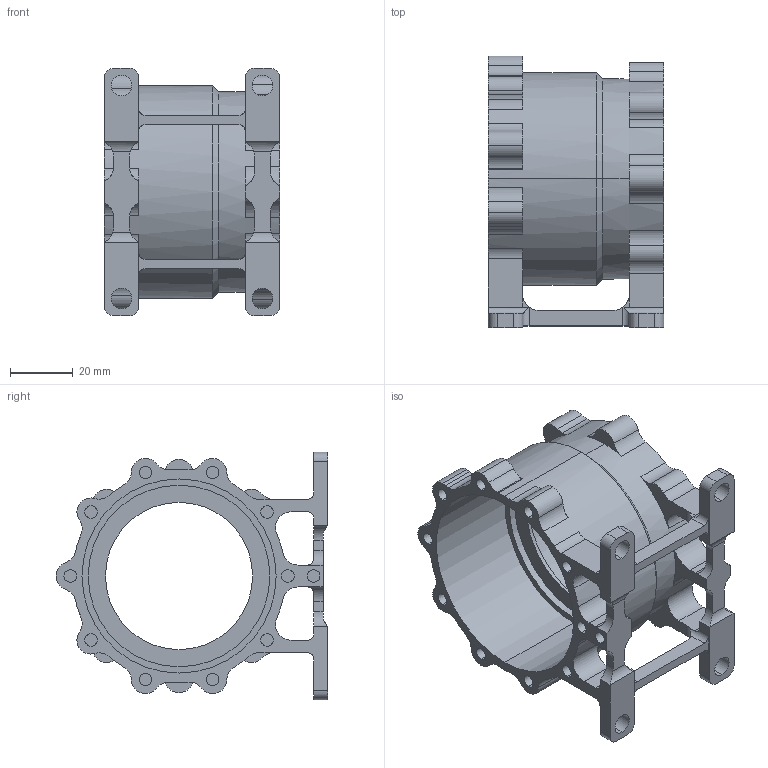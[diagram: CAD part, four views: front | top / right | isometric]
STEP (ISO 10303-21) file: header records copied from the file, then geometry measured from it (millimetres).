
FILE_DESCRIPTION (( 'STEP AP203' ), '1' );
FILE_NAME ('2-10-01-谐波旋转关节-支架.STEP', '2022-10-23T03:02:03', ( 'OS' ), ( '' ), 'SwSTEP 2.0', 'SolidWorks 2018', '' );
FILE_SCHEMA (( 'CONFIG_CONTROL_DESIGN' ));
Length unit declared in the file: millimetre
Products named in the file (1): 2-10-01-谐波旋转关节-支架
Bounding box: 56 x 86.73 x 79 mm (x, y, z)
Volume: 52638.8 mm3; surface area: 37423.5 mm2
Topology: 1 solids, 1 shells, 275 faces, 750 edges, 488 vertices
Faces by surface type: cylinder 176, plane 97, cone 2
Entity records: 9161 total; most frequent: CARTESIAN_POINT 1790, DIRECTION 1642, ORIENTED_EDGE 1500, EDGE_CURVE 750, AXIS2_PLACEMENT_3D 644, VERTEX_POINT 488, CIRCLE 368, LINE 354
